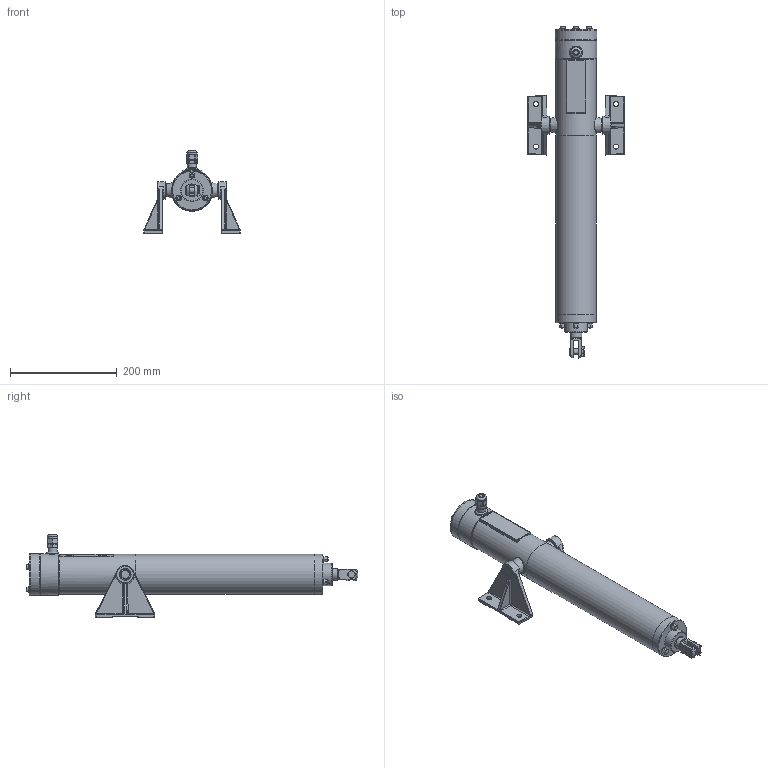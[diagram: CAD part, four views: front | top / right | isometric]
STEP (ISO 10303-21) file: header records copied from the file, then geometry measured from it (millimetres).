
FILE_DESCRIPTION( ( '153-599-4' ), '1' );
FILE_NAME( 'C:/daten/bearbeitung katalogbilder/RBs rendern/austausch pomplun/mit identnr/T1A2-0300-160-182-2.stp', 'Unknown', ( 'Christoph Hahmann' ), ( 'RACO-ELEKTRO-MASCHINEN GmbH' ), 'PSStep 17.0.49', 'Solid Edge ST 7', ' ' );
FILE_SCHEMA( ( 'AUTOMOTIVE_DESIGN { 1 0 10303 214 1 1 1 1 }' ) );
Length unit declared in the file: millimetre
Products named in the file (8): Assem1; Motorgehäuse kpl GZ; 03.65-02 kpl; 02.14-02-0300; 01.15-02-0300; 02.01-02 kpl ; Abschlußdeckel kompl 108-623-5; 01.01-02-150-127-5
Assembly tree (7 placements, depth 2):
  Assem1
    Motorgehäuse kpl GZ
    03.65-02 kpl
    02.14-02-0300
    01.15-02-0300
    02.01-02 kpl 
    Abschlußdeckel kompl 108-623-5
    01.01-02-150-127-5
Bounding box: 181.4 x 621.79 x 154.05 mm (x, y, z)
Surface area: 286190.8 mm2 (no closed solid volume)
Topology: 0 solids, 1183 shells, 1184 faces, 5506 edges, 5309 vertices
Faces by surface type: plane 430, cylinder 364, bspline 144, torus 116, cone 71, sphere 45, extrusion 14
Full cylindrical faces by diameter (mm): 2 x5, 4.917 x6, 5 x3, 5.5 x3, 6.5 x3, 6.7 x3, 8 x3, 8.5 x4, 8.7 x1, 9 x3, 9.5 x4, 10 x4, 11 x3, 12.4 x1, 13.4 x1, 13.5 x1, 13.86 x2, 14.394 x1, 15.2 x2, 16 x4, 16.376 x1, 16.509 x1, 17 x1, 17.281 x1, 18 x1, 18.256 x1, 19 x2, 22 x7, 25.153 x1, 40 x1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
Entity records: 86205 total; most frequent: CARTESIAN_POINT 36201, DIRECTION 8860, VERTEX_POINT 5233, ORIENTED_EDGE 5230, EDGE_CURVE 5230, AXIS2_PLACEMENT_3D 3393, CIRCLE 2144, VECTOR 2074
